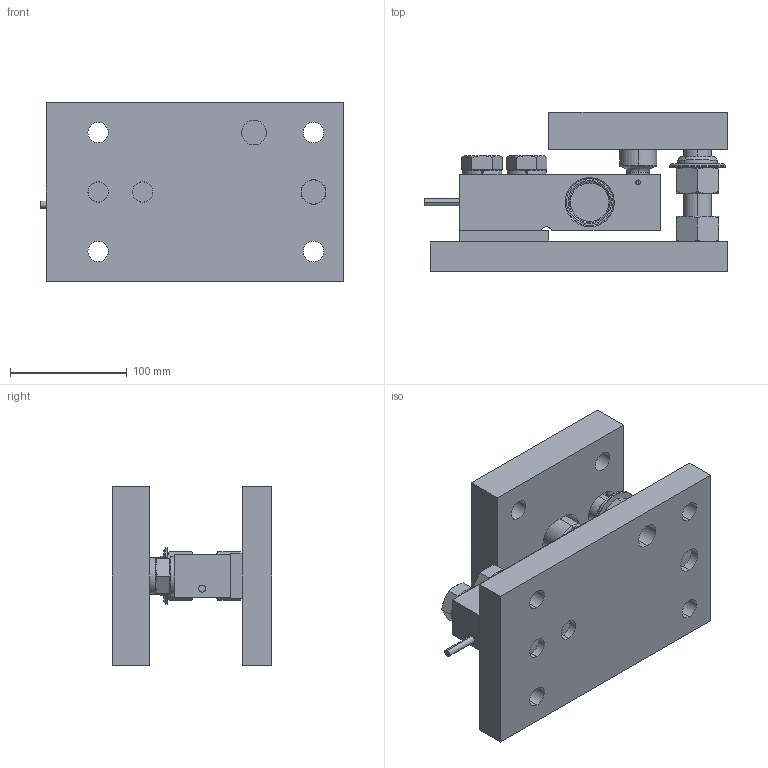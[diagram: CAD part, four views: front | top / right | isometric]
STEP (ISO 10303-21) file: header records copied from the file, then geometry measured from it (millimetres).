
FILE_DESCRIPTION (( 'STEP AP203' ), '1' );
FILE_NAME ('Tank mount 5000 kg.STEP', '2020-02-27T14:51:59', ( '' ), ( '' ), 'SwSTEP 2.0', 'SolidWorks 2019', '' );
FILE_SCHEMA (( 'CONFIG_CONTROL_DESIGN' ));
Length unit declared in the file: millimetre
Products named in the file (11): 470440; hex nut gradec_din_Hexagon Nut ISO 4034 - M24 - N; 469577; curved spring lock washer_din_Spring washer DIN 128 - A20; Economount load button TH 3000-5000 kg; 473098; Tank mount 5000 kg; Beam distance Economount TH 3000-5000 kg; TH 3510 3000-5000 kg; hex screw gradeab_din_DIN EN 24017 - M24 x 110-N; hex screw gradeab_din_DIN EN 24017 - M20 x 80-N
Assembly tree (13 placements, depth 2):
  Tank mount 5000 kg
    473098
    Beam distance Economount TH 3000-5000 kg
    470440
    Economount load button TH 3000-5000 kg
    469577
    TH 3510 3000-5000 kg
    hex nut gradec_din_Hexagon Nut ISO 4034 - M24 - N  x2
    hex screw gradeab_din_DIN EN 24017 - M20 x 80-N  x2
    curved spring lock washer_din_Spring washer DIN 128 - A20  x2
    hex screw gradeab_din_DIN EN 24017 - M24 x 110-N
Bounding box: 258.55 x 136.53 x 152.4 mm (x, y, z)
Volume: 2027648.6 mm3; surface area: 280729.1 mm2
Topology: 13 solids, 13 shells, 318 faces, 710 edges, 431 vertices
Faces by surface type: plane 114, cylinder 93, cone 66, torus 43, sphere 2
Entity records: 8792 total; most frequent: CARTESIAN_POINT 1664, DIRECTION 1339, ORIENTED_EDGE 1144, EDGE_CURVE 572, AXIS2_PLACEMENT_3D 562, VERTEX_POINT 351, EDGE_LOOP 307, CIRCLE 293
